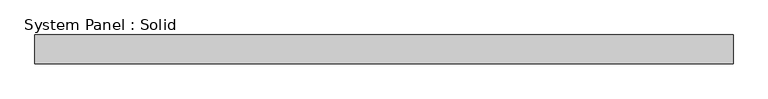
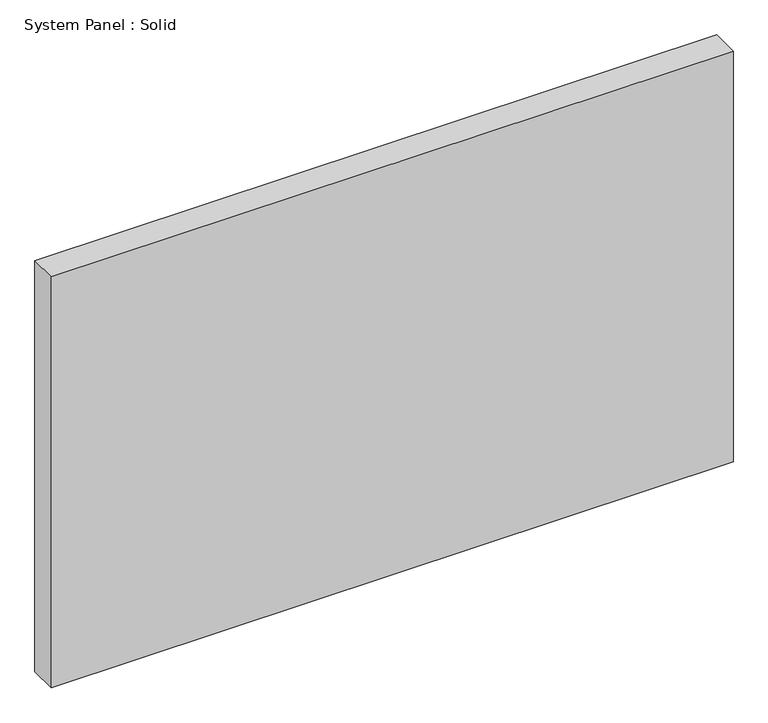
"""IFC4 building model written with IfcOpenShell, lengths in millimetres: plate geometry, System Panel : Solid."""

import ifcopenshell
import ifcopenshell.guid

model = None  # the IFC model being written
_history = None  # IfcOwnerHistory: only IFC2X3 demands one
_inside = {}  # id of a spatial element -> (the spatial element, [elements in it])
_under = {}  # id of a project, library or spatial element -> (it, [spatial elements below it])
_declared = {}  # id of a project -> (the project, [libraries it declares])
_typed = {}  # id of a type object -> (the type object, [elements of that type])
_made_of = {}  # id of a material, layer set ... -> (it, [elements and type objects made of it])


def new_model(schema):
    """Start an empty IFC model of exactly this schema.

    Asked for "IFC4X3", IfcOpenShell would pick the latest addendum, in which some entities
    have other attributes; the version numbers below select the first issue.
    IFC2X3 requires an IfcOwnerHistory on every rooted entity: one is made here for all.
    """
    global model, _history
    if schema == "IFC4X3":
        model = ifcopenshell.file(schema_version=(4, 3, 0, 0))
    else:
        model = ifcopenshell.file(schema=schema)
    _inside.clear()
    _under.clear()
    _declared.clear()
    _typed.clear()
    _made_of.clear()
    _history = None
    if model.schema == "IFC2X3":
        org = make("IfcOrganization", Name="unknown")
        user = make(
            "IfcPersonAndOrganization",
            ThePerson=make("IfcPerson", FamilyName="unknown"),
            TheOrganization=org,
        )
        app = make(
            "IfcApplication",
            ApplicationDeveloper=org,
            Version="unknown",
            ApplicationFullName="unknown",
            ApplicationIdentifier="unknown",
        )
        _history = make(
            "IfcOwnerHistory",
            OwningUser=user,
            OwningApplication=app,
            ChangeAction="ADDED",
            CreationDate=0,
        )
    return model


def make(cls, **values):
    """One entity of the class cls with the attributes given. An attribute that is None is left unset."""
    return model.create_entity(
        cls, **{name: value for name, value in values.items() if value is not None}
    )


def rooted(cls, **values):
    """An entity with a GlobalId (a new one), such as an element, a storey or a relation."""
    return make(cls, GlobalId=ifcopenshell.guid.new(), OwnerHistory=_history, **values)


def si_unit(unit_type, name, prefix=None):
    """IfcSIUnit, for example si_unit("LENGTHUNIT", "METRE", prefix="MILLI")."""
    return make("IfcSIUnit", UnitType=unit_type, Prefix=prefix, Name=name)


def assignment(units):
    """IfcUnitAssignment: the units of a project."""
    return None if units is None else make("IfcUnitAssignment", Units=units)


def point(xyz):
    """IfcCartesianPoint."""
    return None if xyz is None else make("IfcCartesianPoint", Coordinates=xyz)


def direction(xyz):
    """IfcDirection."""
    return None if xyz is None else make("IfcDirection", DirectionRatios=xyz)


def frame(location, z_axis=None, x_axis=None):
    """IfcAxis2Placement3D, a coordinate frame: its origin and axes. An axis left out is left unset."""
    return make(
        "IfcAxis2Placement3D",
        Location=point(location),
        Axis=direction(z_axis),
        RefDirection=direction(x_axis),
    )


def origin():
    """The frame at (0, 0, 0) with its axes left unset."""
    return frame((0.0, 0.0, 0.0))


def origin_with_axes():
    """The frame at (0, 0, 0) with the z axis (0, 0, 1) and the x axis (1, 0, 0) written out."""
    return frame((0.0, 0.0, 0.0), z_axis=(0.0, 0.0, 1.0), x_axis=(1.0, 0.0, 0.0))


def place(relative_to, where):
    """IfcLocalPlacement: puts the frame where relative to a parent placement (None: the world)."""
    return make(
        "IfcLocalPlacement", PlacementRelTo=relative_to, RelativePlacement=where
    )


def context(
    kind, dimensions, precision=None, world=None, true_north=None, identifier=None
):
    """IfcGeometricRepresentationContext, for example the 3D "Model" context."""
    return make(
        "IfcGeometricRepresentationContext",
        ContextIdentifier=identifier,
        ContextType=kind,
        CoordinateSpaceDimension=dimensions,
        Precision=precision,
        WorldCoordinateSystem=world,
        TrueNorth=true_north,
    )


def project(units=None, contexts=None):
    """IfcProject with its units and contexts."""
    return rooted(
        "IfcProject",
        Name="project",
        RepresentationContexts=contexts,
        UnitsInContext=assignment(units),
    )


def spatial(cls, under=None, at=None, **own):
    """A site, building, storey or space (cls), placed at a placement, below another one or the project."""
    s = rooted(cls, ObjectPlacement=at, **own)
    if under is not None:
        _under.setdefault(under.id(), (under, []))[1].append(s)
    return s


def polyline(points):
    """IfcPolyline through the points."""
    return make("IfcPolyline", Points=[point(p) for p in points])


def outline(outer, holes=None, kind="AREA"):
    """IfcArbitraryClosedProfileDef: a profile drawn as a closed curve; with holes, ...WithVoids."""
    if holes is None:
        return make("IfcArbitraryClosedProfileDef", ProfileType=kind, OuterCurve=outer)
    return make(
        "IfcArbitraryProfileDefWithVoids",
        ProfileType=kind,
        OuterCurve=outer,
        InnerCurves=holes,
    )


def extrude(swept, where, along, depth):
    """IfcExtrudedAreaSolid: the profile swept, set in the frame where, extruded along a direction by depth."""
    return make(
        "IfcExtrudedAreaSolid",
        SweptArea=swept,
        Position=where,
        ExtrudedDirection=direction(along),
        Depth=depth,
    )


def shape(context_of_items, identifier, shape_type, items):
    """IfcShapeRepresentation: the items that make up one representation, for example the "Body"."""
    return make(
        "IfcShapeRepresentation",
        ContextOfItems=context_of_items,
        RepresentationIdentifier=identifier,
        RepresentationType=shape_type,
        Items=items,
    )


def source(mapping_origin, context_of_items, identifier, shape_type, items):
    """IfcRepresentationMap: a shape defined once, which mapped items show again and again."""
    return make(
        "IfcRepresentationMap",
        MappingOrigin=mapping_origin,
        MappedRepresentation=shape(context_of_items, identifier, shape_type, items),
    )


def transform(
    local_origin,
    x_axis=None,
    y_axis=None,
    z_axis=None,
    scale=None,
    scale2=None,
    scale3=None,
    uniform=True,
):
    """IfcCartesianTransformationOperator3D, or its non-uniform kind. x_axis, y_axis, z_axis: its Axis1, 2, 3."""
    if uniform:
        return make(
            "IfcCartesianTransformationOperator3D",
            Axis1=direction(x_axis),
            Axis2=direction(y_axis),
            LocalOrigin=point(local_origin),
            Scale=scale,
            Axis3=direction(z_axis),
        )
    return make(
        "IfcCartesianTransformationOperator3DnonUniform",
        Axis1=direction(x_axis),
        Axis2=direction(y_axis),
        LocalOrigin=point(local_origin),
        Scale=scale,
        Axis3=direction(z_axis),
        Scale2=scale2,
        Scale3=scale3,
    )


def mapped(mapping_source, mapping_target):
    """IfcMappedItem: shows the shape of a source again, moved by a transform."""
    return make(
        "IfcMappedItem", MappingSource=mapping_source, MappingTarget=mapping_target
    )


def made_of(thing, what):
    """Note that an element or type object is made of a material, layer set ...; save() writes the relation."""
    if what is not None:
        _made_of.setdefault(what.id(), (what, []))[1].append(thing)
    return thing


def element(
    cls,
    number,
    at=None,
    inside=None,
    cuts=None,
    type_object=None,
    material=None,
    context=None,
    identifier="Body",
    shape_type=None,
    held_by="IfcProductDefinitionShape",
    body=None,
    shapes=None,
    **own,
):
    """One element of the class cls, such as IfcWall. Its Tag is "e" and its number.

    at: its placement. inside: the storey or other place that contains it. cuts: it is an
    opening in that element (IfcRelVoidsElement). A single representation is given by context,
    identifier, shape_type and body (its items); several are given by shapes. held_by: the class
    of the entity that holds the representations. save() writes the other relations.
    """
    e = rooted(cls, Tag="e%d" % number, ObjectPlacement=at, **own)
    if body is not None:
        shapes = [shape(context, identifier, shape_type, body)]
    if shapes is not None:
        e.Representation = make(held_by, Representations=shapes)
    if inside is not None:
        _inside.setdefault(inside.id(), (inside, []))[1].append(e)
    if cuts is not None:
        rooted(
            "IfcRelVoidsElement", RelatingBuildingElement=cuts, RelatedOpeningElement=e
        )
    if type_object is not None:
        _typed.setdefault(type_object.id(), (type_object, []))[1].append(e)
    return made_of(e, material)


def aggregate(whole, parts):
    """IfcRelAggregates: a whole, such as a stair, and the parts it consists of."""
    return rooted("IfcRelAggregates", RelatingObject=whole, RelatedObjects=parts)


def save(model, path):
    """Write the relations noted so far, then the file.

    IfcRelAggregates (storeys below a building ...), IfcRelContainedInSpatialStructure (elements
    in a storey), IfcRelDefinesByType, IfcRelAssociatesMaterial and IfcRelDeclares: one each for
    every whole, place, type object, material and project.
    """
    for whole, parts in _under.values():
        aggregate(whole, parts)
    for where, things in _inside.values():
        rooted(
            "IfcRelContainedInSpatialStructure",
            RelatedElements=things,
            RelatingStructure=where,
        )
    for kind, things in _typed.values():
        rooted("IfcRelDefinesByType", RelatedObjects=things, RelatingType=kind)
    for what, things in _made_of.values():
        rooted("IfcRelAssociatesMaterial", RelatedObjects=things, RelatingMaterial=what)
    for by, libraries in _declared.values():
        rooted("IfcRelDeclares", RelatingContext=by, RelatedDefinitions=libraries)
    model.write(path)


def system_panel_solid_7338a288(model_context):
    return source(origin(), model_context, "Body", "SweptSolid", [
        extrude(outline(polyline([(726.123828, -49.5), (-726.123828, -49.5), (-726.123828, 10.5), (726.123828, 10.5), (726.123828, -49.5)])), origin_with_axes(), (0.0, 0.0, 1.0), 925.0),
    ])


if __name__ == "__main__":
    model = new_model("IFC4")
    model_context = context("Model", 3, world=origin())
    ifc_project = project(units=[si_unit("LENGTHUNIT", "METRE", prefix="MILLI")], contexts=[model_context])
    site = spatial("IfcSite", under=ifc_project)
    building = spatial("IfcBuilding", under=site)
    placement = place(None, origin())
    system_panel_solid_shape = system_panel_solid_7338a288(model_context)
    element("IfcPlate", 1, ObjectType="System Panel : Solid", at=placement, inside=building, context=model_context, shape_type="MappedRepresentation", body=[
        mapped(system_panel_solid_shape, transform((0.0, 0.0, 0.0), x_axis=(1.0, 0.0, 0.0), y_axis=(0.0, 1.0, 0.0), z_axis=(0.0, 0.0, 1.0))),
    ])
    save(model, "model.ifc")
